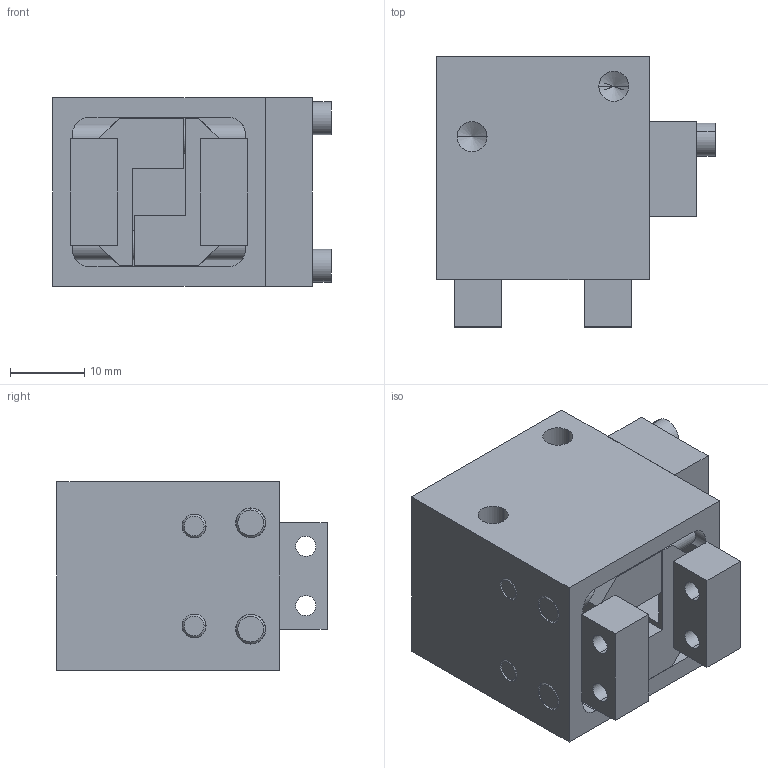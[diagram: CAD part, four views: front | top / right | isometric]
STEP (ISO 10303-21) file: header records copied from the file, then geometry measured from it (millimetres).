
FILE_DESCRIPTION (( 'STEP AP203' ), '1' );
FILE_NAME ('AGP-187 CLOSED w BLOCK in IN.STEP', '2014-10-31T18:39:45', ( 'setup' ), ( '' ), 'SwSTEP 2.0', 'SolidWorks 2013', '' );
FILE_SCHEMA (( 'CONFIG_CONTROL_DESIGN' ));
Length unit declared in the file: inch
Products named in the file (7): AGP-187 BODY; AGP-187 JAW; AGP-187 PIN 1; AGP-187 PIN 2; AGP-187 SENSOR BLOCK; WGL50-SQ; AGP-187 CLOSED w BLOCK in IN
Assembly tree (10 placements, depth 2):
  AGP-187 CLOSED w BLOCK in IN
    AGP-187 BODY
    AGP-187 JAW  x2
    AGP-187 PIN 1  x2
    AGP-187 PIN 2  x2
    AGP-187 SENSOR BLOCK
    WGL50-SQ  x2
Bounding box: 37.47 x 36.3 x 25.4 mm (x, y, z)
Volume: 20551.4 mm3; surface area: 13928.6 mm2
Topology: 10 solids, 10 shells, 244 faces, 664 edges, 418 vertices
Faces by surface type: cylinder 106, plane 98, cone 40
Entity records: 6727 total; most frequent: CARTESIAN_POINT 1329, DIRECTION 984, ORIENTED_EDGE 928, EDGE_CURVE 464, AXIS2_PLACEMENT_3D 363, VERTEX_POINT 302, VECTOR 258, LINE 258
